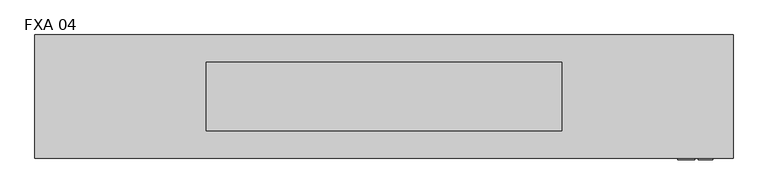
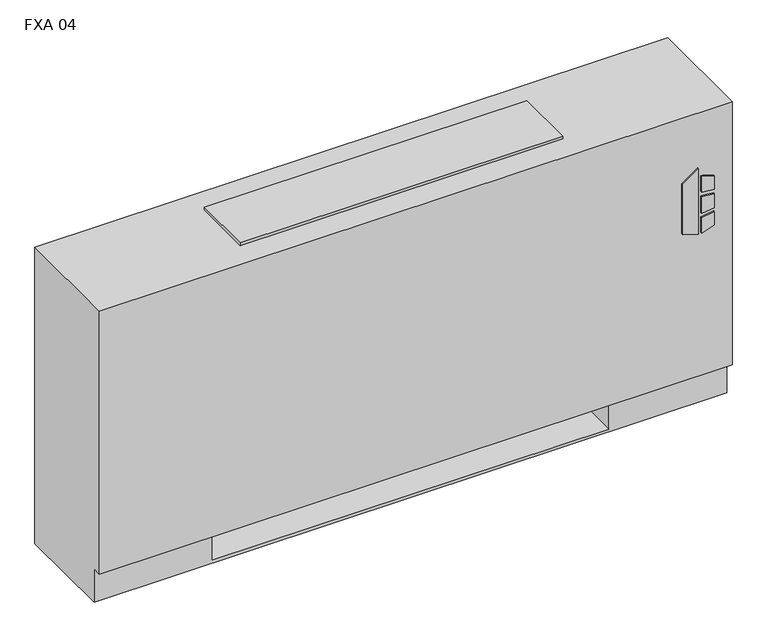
"""IFC4 building model written with IfcOpenShell, lengths in millimetres: proxy geometry, Vertical_Fan_Coil_Unit_-_FXA_-_IEC_-_2-Pipe_TS-FR_LH_2022 : FXA 04."""

from ifc_helpers import new_model, si_unit, point, frame, frame_2d, origin, place, context, project, spatial, polyline, circle_curve, trimmed, segment, composite_curve, outline, extrude, source, transform, mapped, element, save
from ifc_brep_helpers import plane_surface, revolved_surface, advanced_brep


def fxa_04_59fe42b9(model_context):
    return source(origin(), model_context, "Body", "SolidModel", [
        extrude(outline(polyline([(391.6086829, 696.9868862), (381.6606126, 729.1602728), (523.831537, 729.1602728), (500.8095309, 696.9868862), (391.6086829, 696.9868862)])), frame((0.0, 12.7, 0.0), z_axis=(0.0, 1.0, 0.0), x_axis=(0.0, 0.0, 1.0)), (0.0, 0.0, 1.0), 3.175),
        extrude(outline(polyline([(470.6079683, 735.9186058), (467.4055757, 762.0), (496.6344168, 762.0), (504.6988318, 735.9186058), (470.6079683, 735.9186058)])), frame((0.0, 12.7, 0.0), z_axis=(0.0, 1.0, 0.0), x_axis=(0.0, 0.0, 1.0)), (0.0, 0.0, 1.0), 3.175),
        extrude(outline(polyline([(418.7444414, 762.0), (415.0789404, 735.9186058), (381.6606126, 735.9186058), (390.2948498, 762.0), (418.7444414, 762.0)])), frame((0.0, 12.7, 0.0), z_axis=(0.0, 1.0, 0.0), x_axis=(0.0, 0.0, 1.0)), (0.0, 0.0, 1.0), 3.175),
        extrude(outline(polyline([(458.0596028, 762.0), (460.3414292, 735.9186058), (424.4038806, 735.9186058), (427.1451456, 762.0), (458.0596028, 762.0)])), frame((0.0, 12.7, 0.0), z_axis=(0.0, 1.0, 0.0), x_axis=(0.0, 0.0, 1.0)), (0.0, 0.0, 1.0), 3.175),
        extrude(outline(polyline([(679.45, 223.266), (679.45, 81.534), (558.8, 81.534), (558.8, 223.266), (679.45, 223.266)])), frame((0.0, 0.0, 327.025), z_axis=(0.0, 0.0, 1.0), x_axis=(1.0, 0.0, 0.0)), (0.0, 0.0, 1.0), 260.35),
        extrude(outline(composite_curve([segment(trimmed(circle_curve(frame_2d((-317.5, 130.175)), 9.525), [point((-327.025, 130.175))], [point((-307.975, 130.175))], False, "CARTESIAN"), True, "CONTINUOUS"), segment(trimmed(circle_curve(frame_2d((-317.5, 130.175)), 9.525), [point((-307.975, 130.175))], [point((-327.025, 130.175))], False, "CARTESIAN"), True, "CONTINUOUS")], self_intersect=False)), frame((0.0, 0.0, 101.6), z_axis=(0.0, 0.0, 1.0), x_axis=(1.0, 0.0, 0.0)), (0.0, 0.0, 1.0), 25.4),
        extrude(outline(polyline([(-412.75, 63.5), (-412.75, 196.85), (-254.0, 196.85), (-254.0, 63.5), (-412.75, 63.5)])), frame((0.0, 0.0, 127.0), z_axis=(0.0, 0.0, 1.0), x_axis=(1.0, 0.0, 0.0)), (0.0, 0.0, 1.0), 50.8),
        extrude(outline(composite_curve([segment(trimmed(circle_curve(frame_2d((93.1926, 485.5972)), 7.9375), [point((93.1926, 493.5347))], [point((93.1926, 477.6597))], False, "CARTESIAN"), True, "CONTINUOUS"), segment(trimmed(circle_curve(frame_2d((93.1926, 485.5972)), 7.9375), [point((93.1926, 477.6597))], [point((93.1926, 493.5347))], False, "CARTESIAN"), True, "CONTINUOUS")], self_intersect=False)), frame((-304.8, 0.0, 0.0), z_axis=(1.0, 0.0, 0.0), x_axis=(0.0, 1.0, 0.0)), (0.0, 0.0, 1.0), 50.8),
        extrude(outline(composite_curve([segment(trimmed(circle_curve(frame_2d((141.3002, 458.9526)), 7.9375), [point((141.3002, 466.8901))], [point((141.3002, 451.0151))], False, "CARTESIAN"), True, "CONTINUOUS"), segment(trimmed(circle_curve(frame_2d((141.3002, 458.9526)), 7.9375), [point((141.3002, 451.0151))], [point((141.3002, 466.8901))], False, "CARTESIAN"), True, "CONTINUOUS")], self_intersect=False)), frame((-304.8, 0.0, 0.0), z_axis=(1.0, 0.0, 0.0), x_axis=(0.0, 1.0, 0.0)), (0.0, 0.0, 1.0), 50.8),
        advanced_brep(
        [(800.1, 244.475, 641.35), (-495.3, 244.475, 641.35), (-495.3, 15.875, 641.35), (800.1, 15.875, 641.35), (-495.3, 244.475, 0.0), (800.1, 244.475, 0.0), (800.1, 34.925, 0.0), (-495.3, 34.925, 0.0), (558.8, 244.475, 73.025), (787.4, 244.475, 73.025), (787.4, 244.475, 628.65), (558.8, 244.475, 628.65), (558.8, 244.475, 414.8650565), (587.375, 244.475, 414.8650565), (587.375, 244.475, 385.2349435), (558.8, 244.475, 385.2349435), (558.8, 244.475, 287.3375), (587.375, 244.475, 287.3375), (587.375, 244.475, 258.7625), (558.8, 244.475, 258.7625), (558.8, 244.475, 141.2875), (587.375, 244.475, 141.2875), (587.375, 244.475, 112.7125), (558.8, 244.475, 112.7125), (-254.0, 244.475, 628.65), (-482.6, 244.475, 628.65), (-482.6, 244.475, 73.025), (-254.0, 244.475, 73.025), (-254.0, 244.475, 112.7125), (-282.575, 244.475, 112.7125), (-282.575, 244.475, 141.2875), (-254.0, 244.475, 141.2875), (-254.0, 244.475, 258.7625), (-282.575, 244.475, 258.7625), (-282.575, 244.475, 287.3375), (-254.0, 244.475, 287.3375), (-254.0, 244.475, 385.2349435), (-282.575, 244.475, 385.2349435), (-282.575, 244.475, 414.8650565), (-254.0, 244.475, 414.8650565), (577.0626, 244.475, 127.0), (565.9374, 244.475, 127.0), (577.0626, 244.475, 400.05), (565.9374, 244.475, 400.05), (577.0626, 244.475, 273.05), (565.9374, 244.475, 273.05), (-261.1374, 244.475, 127.0), (-272.2626, 244.475, 127.0), (-261.1374, 244.475, 273.05), (-272.2626, 244.475, 273.05), (-261.1374, 244.475, 400.05), (-272.2626, 244.475, 400.05), (-495.3, 34.925, 73.025), (-495.3, 15.875, 73.025), (800.1, 15.875, 73.025), (800.1, 34.925, 73.025), (-254.0, 34.925, 73.025), (-254.0, 219.075, 73.025), (558.8, 219.075, 73.025), (558.8, 34.925, 73.025), (558.8, 34.925, 6.35), (-254.0, 34.925, 6.35), (558.8, 41.275, 628.65), (787.4, 41.275, 628.65), (787.4, 41.275, 73.025), (558.8, 41.275, 73.025), (-254.0, 41.275, 628.65), (-254.0, 41.275, 73.025), (-482.6, 41.275, 73.025), (-482.6, 41.275, 628.65), (558.8, 219.075, 73.025), (558.8, 238.125, 112.7125), (558.8, 238.125, 141.2875), (558.8, 238.125, 258.7625), (558.8, 238.125, 287.3375), (558.8, 238.125, 385.2349435), (558.8, 238.125, 414.8650565), (-254.0, 219.075, 73.025), (-254.0, 238.125, 414.8650565), (-254.0, 238.125, 385.2349435), (-254.0, 238.125, 287.3375), (-254.0, 238.125, 258.7625), (-254.0, 238.125, 141.2875), (-254.0, 238.125, 112.7125), (-254.0, 219.075, 6.35), (558.8, 219.075, 6.35), (587.375, 238.125, 112.7125), (587.375, 238.125, 141.2875), (565.9374, 238.125, 127.0), (577.0626, 238.125, 127.0), (587.375, 238.125, 258.7625), (587.375, 238.125, 287.3375), (565.9374, 238.125, 273.05), (577.0626, 238.125, 273.05), (587.375, 238.125, 385.2349435), (587.375, 238.125, 414.8650565), (565.9374, 238.125, 400.05), (577.0626, 238.125, 400.05), (-282.575, 238.125, 141.2875), (-282.575, 238.125, 112.7125), (-272.2626, 238.125, 127.0), (-261.1374, 238.125, 127.0), (-282.575, 238.125, 287.3375), (-282.575, 238.125, 258.7625), (-272.2626, 238.125, 273.05), (-261.1374, 238.125, 273.05), (-282.575, 238.125, 414.8650565), (-282.575, 238.125, 385.2349435), (-272.2626, 238.125, 400.05), (-261.1374, 238.125, 400.05)],
        [
            (0, 1),
            (1, 2),
            (2, 3),
            (3, 0),
            (4, 5),
            (5, 6),
            (6, 7),
            (7, 4),
            (0, 5),
            (4, 1),
            (8, 9),
            (9, 10),
            (10, 11),
            (11, 12),
            (12, 13),
            (13, 14),
            (14, 15),
            (15, 16),
            (16, 17),
            (17, 18),
            (18, 19),
            (19, 20),
            (20, 21),
            (21, 22),
            (22, 23),
            (23, 8),
            (24, 25),
            (25, 26),
            (26, 27),
            (27, 28),
            (28, 29),
            (29, 30),
            (30, 31),
            (31, 32),
            (32, 33),
            (33, 34),
            (34, 35),
            (35, 36),
            (36, 37),
            (37, 38),
            (38, 39),
            (39, 24),
            (40, 41, circle_curve(frame((571.5, 244.475, 127.0), z_axis=(0.0, -1.0, 0.0), x_axis=(-1.0, 0.0, 0.0)), 5.5626)),
            (41, 40, circle_curve(frame((571.5, 244.475, 127.0), z_axis=(0.0, -1.0, 0.0), x_axis=(-1.0, 0.0, 0.0)), 5.5626)),
            (42, 43, circle_curve(frame((571.5, 244.475, 400.05), z_axis=(0.0, -1.0, 0.0), x_axis=(-1.0, 0.0, 0.0)), 5.5626)),
            (43, 42, circle_curve(frame((571.5, 244.475, 400.05), z_axis=(0.0, -1.0, 0.0), x_axis=(-1.0, 0.0, 0.0)), 5.5626)),
            (44, 45, circle_curve(frame((571.5, 244.475, 273.05), z_axis=(0.0, -1.0, 0.0), x_axis=(-1.0, 0.0, 0.0)), 5.5626)),
            (45, 44, circle_curve(frame((571.5, 244.475, 273.05), z_axis=(0.0, -1.0, 0.0), x_axis=(-1.0, 0.0, 0.0)), 5.5626)),
            (46, 47, circle_curve(frame((-266.7, 244.475, 127.0), z_axis=(0.0, -1.0, 0.0), x_axis=(-1.0, 0.0, 0.0)), 5.5626)),
            (47, 46, circle_curve(frame((-266.7, 244.475, 127.0), z_axis=(0.0, -1.0, 0.0), x_axis=(-1.0, 0.0, 0.0)), 5.5626)),
            (48, 49, circle_curve(frame((-266.7, 244.475, 273.05), z_axis=(0.0, -1.0, 0.0), x_axis=(-1.0, 0.0, 0.0)), 5.5626)),
            (49, 48, circle_curve(frame((-266.7, 244.475, 273.05), z_axis=(0.0, -1.0, 0.0), x_axis=(-1.0, 0.0, 0.0)), 5.5626)),
            (50, 51, circle_curve(frame((-266.7, 244.475, 400.05), z_axis=(0.0, -1.0, 0.0), x_axis=(-1.0, 0.0, 0.0)), 5.5626)),
            (51, 50, circle_curve(frame((-266.7, 244.475, 400.05), z_axis=(0.0, -1.0, 0.0), x_axis=(-1.0, 0.0, 0.0)), 5.5626)),
            (7, 52),
            (52, 53),
            (53, 2),
            (53, 54),
            (54, 3),
            (54, 55),
            (55, 6),
            (52, 56),
            (56, 57),
            (57, 58),
            (58, 59),
            (59, 55),
            (59, 60),
            (60, 61),
            (61, 56),
            (62, 63),
            (63, 64),
            (64, 65),
            (65, 62),
            (66, 67),
            (67, 68),
            (68, 69),
            (69, 66),
            (65, 70),
            (70, 8),
            (23, 71),
            (71, 72),
            (72, 20),
            (19, 73),
            (73, 74),
            (74, 16),
            (15, 75),
            (75, 76),
            (76, 12),
            (11, 62),
            (64, 9),
            (63, 10),
            (69, 25),
            (24, 66),
            (68, 26),
            (67, 77),
            (77, 27),
            (39, 78),
            (78, 79),
            (79, 36),
            (35, 80),
            (80, 81),
            (81, 32),
            (31, 82),
            (82, 83),
            (83, 28),
            (57, 84),
            (84, 85),
            (85, 58),
            (85, 60),
            (84, 61),
            (71, 86),
            (86, 87),
            (87, 72),
            (88, 89, circle_curve(frame((571.5, 238.125, 127.0), z_axis=(0.0, 1.0, 0.0), x_axis=(-1.0, 0.0, 0.0)), 5.5626)),
            (89, 88, circle_curve(frame((571.5, 238.125, 127.0), z_axis=(0.0, 1.0, 0.0), x_axis=(-1.0, 0.0, 0.0)), 5.5626)),
            (73, 90),
            (90, 91),
            (91, 74),
            (92, 93, circle_curve(frame((571.5, 238.125, 273.05), z_axis=(0.0, 1.0, 0.0), x_axis=(-1.0, 0.0, 0.0)), 5.5626)),
            (93, 92, circle_curve(frame((571.5, 238.125, 273.05), z_axis=(0.0, 1.0, 0.0), x_axis=(-1.0, 0.0, 0.0)), 5.5626)),
            (75, 94),
            (94, 95),
            (95, 76),
            (96, 97, circle_curve(frame((571.5, 238.125, 400.05), z_axis=(0.0, 1.0, 0.0), x_axis=(-1.0, 0.0, 0.0)), 5.5626)),
            (97, 96, circle_curve(frame((571.5, 238.125, 400.05), z_axis=(0.0, 1.0, 0.0), x_axis=(-1.0, 0.0, 0.0)), 5.5626)),
            (98, 99),
            (99, 83),
            (82, 98),
            (100, 101, circle_curve(frame((-266.7, 238.125, 127.0), z_axis=(0.0, 1.0, 0.0), x_axis=(-1.0, 0.0, 0.0)), 5.5626)),
            (101, 100, circle_curve(frame((-266.7, 238.125, 127.0), z_axis=(0.0, 1.0, 0.0), x_axis=(-1.0, 0.0, 0.0)), 5.5626)),
            (102, 103),
            (103, 81),
            (80, 102),
            (104, 105, circle_curve(frame((-266.7, 238.125, 273.05), z_axis=(0.0, 1.0, 0.0), x_axis=(-1.0, 0.0, 0.0)), 5.5626)),
            (105, 104, circle_curve(frame((-266.7, 238.125, 273.05), z_axis=(0.0, 1.0, 0.0), x_axis=(-1.0, 0.0, 0.0)), 5.5626)),
            (106, 107),
            (107, 79),
            (78, 106),
            (108, 109, circle_curve(frame((-266.7, 238.125, 400.05), z_axis=(0.0, 1.0, 0.0), x_axis=(-1.0, 0.0, 0.0)), 5.5626)),
            (109, 108, circle_curve(frame((-266.7, 238.125, 400.05), z_axis=(0.0, 1.0, 0.0), x_axis=(-1.0, 0.0, 0.0)), 5.5626)),
            (87, 21),
            (86, 22),
            (91, 17),
            (90, 18),
            (95, 13),
            (94, 14),
            (30, 98),
            (99, 29),
            (34, 102),
            (103, 33),
            (38, 106),
            (107, 37),
            (88, 41),
            (40, 89),
            (96, 43),
            (42, 97),
            (92, 45),
            (44, 93),
            (100, 47),
            (46, 101),
            (104, 49),
            (48, 105),
            (108, 51),
            (50, 109),
        ],
        [
            plane_surface(frame((-495.3, 244.475, 641.35), z_axis=(0.0, 0.0, 1.0), x_axis=(-1.0, 0.0, 0.0))),
            plane_surface(frame((-495.3, 244.475, 0.0), z_axis=(0.0, 0.0, -1.0), x_axis=(1.0, 0.0, 0.0))),
            plane_surface(frame((800.1, 244.475, 641.35), z_axis=(0.0, 1.0, 0.0), x_axis=(0.0, 0.0, -1.0))),
            plane_surface(frame((-495.3, 244.475, 641.35), z_axis=(-1.0, 0.0, 0.0), x_axis=(0.0, 0.0, -1.0))),
            plane_surface(frame((-495.3, 15.875, 641.35), z_axis=(0.0, -1.0, 0.0), x_axis=(0.0, 0.0, -1.0))),
            plane_surface(frame((800.1, 15.875, 641.35), z_axis=(1.0, 0.0, 0.0), x_axis=(0.0, 0.0, -1.0))),
            plane_surface(frame((-495.3, 15.875, 73.025), z_axis=(0.0, 0.0, -1.0), x_axis=(1.0, 0.0, 0.0))),
            plane_surface(frame((-495.3, 34.925, 73.025), z_axis=(0.0, -1.0, 0.0), x_axis=(1.0, 0.0, 0.0))),
            plane_surface(frame((558.8, 41.275, 628.65), z_axis=(0.0, 1.0, 0.0), x_axis=(0.0, 0.0, -1.0))),
            plane_surface(frame((558.8, 41.275, 628.65), z_axis=(1.0, 0.0, 0.0), x_axis=(0.0, 1.0, 0.0))),
            plane_surface(frame((558.8, 41.275, 73.025), z_axis=(0.0, 0.0, 1.0), x_axis=(0.0, 1.0, 0.0))),
            plane_surface(frame((787.4, 41.275, 73.025), z_axis=(-1.0, 0.0, 0.0), x_axis=(0.0, 1.0, 0.0))),
            plane_surface(frame((787.4, 41.275, 628.65), z_axis=(0.0, 0.0, -1.0), x_axis=(0.0, 1.0, 0.0))),
            plane_surface(frame((-254.0, 41.275, 628.65), z_axis=(0.0, 0.0, -1.0), x_axis=(0.0, 1.0, 0.0))),
            plane_surface(frame((-482.6, 41.275, 628.65), z_axis=(1.0, 0.0, 0.0), x_axis=(0.0, 1.0, 0.0))),
            plane_surface(frame((-482.6, 41.275, 73.025), z_axis=(0.0, 0.0, 1.0), x_axis=(0.0, 1.0, 0.0))),
            plane_surface(frame((-254.0, 41.275, 73.025), z_axis=(-1.0, 0.0, 0.0), x_axis=(0.0, 1.0, 0.0))),
            plane_surface(frame((558.8, 219.075, 73.025), z_axis=(0.0, -1.0, 0.0), x_axis=(0.0, 0.0, -1.0))),
            plane_surface(frame((558.8, 219.075, 73.025), z_axis=(-1.0, 0.0, 0.0), x_axis=(0.0, -1.0, 0.0))),
            plane_surface(frame((558.8, 219.075, 6.35), z_axis=(0.0, 0.0, 1.0), x_axis=(0.0, -1.0, 0.0))),
            plane_surface(frame((-254.0, 219.075, 6.35), z_axis=(1.0, 0.0, 0.0), x_axis=(0.0, -1.0, 0.0))),
            plane_surface(frame((587.375, 238.125, 141.2875), z_axis=(0.0, -1.0, 0.0), x_axis=(-1.0, 0.0, 0.0))),
            plane_surface(frame((558.8, 244.475, 141.2875), z_axis=(0.0, 0.0, 1.0), x_axis=(0.0, -1.0, 0.0))),
            plane_surface(frame((587.375, 244.475, 141.2875), z_axis=(1.0, 0.0, 0.0), x_axis=(0.0, -1.0, 0.0))),
            plane_surface(frame((587.375, 244.475, 112.7125), z_axis=(0.0, 0.0, -1.0), x_axis=(0.0, -1.0, 0.0))),
            plane_surface(frame((558.8, 244.475, 287.3375), z_axis=(0.0, 0.0, 1.0), x_axis=(0.0, -1.0, 0.0))),
            plane_surface(frame((587.375, 244.475, 287.3375), z_axis=(1.0, 0.0, 0.0), x_axis=(0.0, -1.0, 0.0))),
            plane_surface(frame((587.375, 244.475, 258.7625), z_axis=(0.0, 0.0, -1.0), x_axis=(0.0, -1.0, 0.0))),
            plane_surface(frame((558.8, 244.475, 414.8650565), z_axis=(0.0, 0.0, 1.0), x_axis=(0.0, -1.0, 0.0))),
            plane_surface(frame((587.375, 244.475, 414.8650565), z_axis=(1.0, 0.0, 0.0), x_axis=(0.0, -1.0, 0.0))),
            plane_surface(frame((587.375, 244.475, 385.2349435), z_axis=(0.0, 0.0, -1.0), x_axis=(0.0, -1.0, 0.0))),
            plane_surface(frame((-282.575, 244.475, 141.2875), z_axis=(0.0, 0.0, 1.0), x_axis=(0.0, -1.0, 0.0))),
            plane_surface(frame((-254.0, 244.475, 112.7125), z_axis=(0.0, 0.0, -1.0), x_axis=(0.0, -1.0, 0.0))),
            plane_surface(frame((-282.575, 244.475, 112.7125), z_axis=(-1.0, 0.0, 0.0), x_axis=(0.0, -1.0, 0.0))),
            plane_surface(frame((-282.575, 244.475, 287.3375), z_axis=(0.0, 0.0, 1.0), x_axis=(0.0, -1.0, 0.0))),
            plane_surface(frame((-254.0, 244.475, 258.7625), z_axis=(0.0, 0.0, -1.0), x_axis=(0.0, -1.0, 0.0))),
            plane_surface(frame((-282.575, 244.475, 258.7625), z_axis=(-1.0, 0.0, 0.0), x_axis=(0.0, -1.0, 0.0))),
            plane_surface(frame((-282.575, 244.475, 414.8650565), z_axis=(0.0, 0.0, 1.0), x_axis=(0.0, -1.0, 0.0))),
            plane_surface(frame((-254.0, 244.475, 385.2349435), z_axis=(0.0, 0.0, -1.0), x_axis=(0.0, -1.0, 0.0))),
            plane_surface(frame((-282.575, 244.475, 385.2349435), z_axis=(-1.0, 0.0, 0.0), x_axis=(0.0, -1.0, 0.0))),
            revolved_surface(polyline([(565.9374, 238.125, 127.0), (565.9374, 244.475, 127.0)]), (571.5, 244.475, 127.0), (0.0, -1.0, 0.0)),
            revolved_surface(polyline([(565.9374, 238.125, 400.05), (565.9374, 244.475, 400.05)]), (571.5, 244.475, 400.05), (0.0, -1.0, 0.0)),
            revolved_surface(polyline([(565.9374, 238.125, 273.05), (565.9374, 244.475, 273.05)]), (571.5, 244.475, 273.05), (0.0, -1.0, 0.0)),
            revolved_surface(polyline([(-272.26259999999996, 238.125, 127.0), (-272.26259999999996, 244.475, 127.0)]), (-266.7, 244.475, 127.0), (0.0, -1.0, 0.0)),
            revolved_surface(polyline([(-272.26259999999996, 238.125, 273.05), (-272.26259999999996, 244.475, 273.05)]), (-266.7, 244.475, 273.05), (0.0, -1.0, 0.0)),
            revolved_surface(polyline([(-272.26259999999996, 238.125, 400.05), (-272.26259999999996, 244.475, 400.05)]), (-266.7, 244.475, 400.05), (0.0, -1.0, 0.0)),
        ],
        [
            (0, [[1, 2, 3, 4]]),
            (1, [[5, 6, 7, 8]]),
            (2, [[-1, 9, -5, 10], [11, 12, 13, 14, 15, 16, 17, 18, 19, 20, 21, 22, 23, 24, 25, 26], [27, 28, 29, 30, 31, 32, 33, 34, 35, 36, 37, 38, 39, 40, 41, 42], [43, 44], [45, 46], [47, 48], [49, 50], [51, 52], [53, 54]]),
            (3, [[-2, -10, -8, 55, 56, 57]]),
            (4, [[-3, -57, 58, 59]]),
            (5, [[-4, -59, 60, 61, -6, -9]]),
            (6, [[-56, 62, 63, 64, 65, 66, -60, -58]]),
            (7, [[-7, -61, -66, 67, 68, 69, -62, -55]]),
            (8, [[70, 71, 72, 73]]),
            (8, [[74, 75, 76, 77]]),
            (9, [[-73, 78, 79, -26, 80, 81, 82, -22, 83, 84, 85, -18, 86, 87, 88, -14, 89]]),
            (10, [[-72, 90, -11, -79, -78]]),
            (11, [[-71, 91, -12, -90]]),
            (12, [[-70, -89, -13, -91]]),
            (13, [[-77, 92, -27, 93]]),
            (14, [[-76, 94, -28, -92]]),
            (15, [[-75, 95, 96, -29, -94]]),
            (16, [[-74, -93, -42, 97, 98, 99, -38, 100, 101, 102, -34, 103, 104, 105, -30, -96, -95]]),
            (17, [[-64, 106, 107, 108]]),
            (18, [[-108, 109, -67, -65]]),
            (19, [[-107, 110, -68, -109]]),
            (20, [[-106, -63, -69, -110]]),
            (21, [[111, 112, 113, -81], [114, 115]]),
            (21, [[116, 117, 118, -84], [119, 120]]),
            (21, [[121, 122, 123, -87], [124, 125]]),
            (21, [[126, 127, -104, 128], [129, 130]]),
            (21, [[131, 132, -101, 133], [134, 135]]),
            (21, [[136, 137, -98, 138], [139, 140]]),
            (22, [[-113, 141, -23, -82]]),
            (23, [[-112, 142, -24, -141]]),
            (24, [[-111, -80, -25, -142]]),
            (25, [[-118, 143, -19, -85]]),
            (26, [[-117, 144, -20, -143]]),
            (27, [[-116, -83, -21, -144]]),
            (28, [[-123, 145, -15, -88]]),
            (29, [[-122, 146, -16, -145]]),
            (30, [[-121, -86, -17, -146]]),
            (31, [[-128, -103, -33, 147]]),
            (32, [[-127, 148, -31, -105]]),
            (33, [[-126, -147, -32, -148]]),
            (34, [[-133, -100, -37, 149]]),
            (35, [[-132, 150, -35, -102]]),
            (36, [[-131, -149, -36, -150]]),
            (37, [[-138, -97, -41, 151]]),
            (38, [[-137, 152, -39, -99]]),
            (39, [[-136, -151, -40, -152]]),
            (40, [[153, -43, 154, -114]]),
            (40, [[-153, -115, -154, -44]]),
            (41, [[155, -45, 156, -124]]),
            (41, [[-155, -125, -156, -46]]),
            (42, [[157, -47, 158, -119]]),
            (42, [[-157, -120, -158, -48]]),
            (43, [[159, -49, 160, -129]]),
            (43, [[-159, -130, -160, -50]]),
            (44, [[161, -51, 162, -134]]),
            (44, [[-161, -135, -162, -52]]),
            (45, [[163, -53, 164, -139]]),
            (45, [[-163, -140, -164, -54]]),
        ],
    ),
        extrude(outline(polyline([(482.6, 193.675), (482.6, 66.675), (-177.8, 66.675), (-177.8, 193.675), (482.6, 193.675)])), frame((0.0, 0.0, 641.35), z_axis=(0.0, 0.0, 1.0), x_axis=(1.0, 0.0, 0.0)), (0.0, 0.0, 1.0), 6.35),
    ])


if __name__ == "__main__":
    model = new_model("IFC4")
    model_context = context("Model", 3, world=origin())
    ifc_project = project(units=[si_unit("LENGTHUNIT", "METRE", prefix="MILLI")], contexts=[model_context])
    site = spatial("IfcSite", under=ifc_project)
    building = spatial("IfcBuilding", under=site)
    placement = place(None, origin())
    fxa_04_shape = fxa_04_59fe42b9(model_context)
    element("IfcBuildingElementProxy", 1, Name="Vertical_Fan_Coil_Unit_-_FXA_-_IEC_-_2-Pipe_TS-FR_LH_2022 : FXA 04", ObjectType="Vertical_Fan_Coil_Unit_-_FXA_-_IEC_-_2-Pipe_TS-FR_LH_2022 : FXA 04", at=placement, inside=building, context=model_context, shape_type="MappedRepresentation", body=[
        mapped(fxa_04_shape, transform((0.0, 0.0, 0.0), x_axis=(1.0, 0.0, 0.0), y_axis=(0.0, 1.0, 0.0), z_axis=(0.0, 0.0, 1.0))),
    ])
    save(model, "model.ifc")
